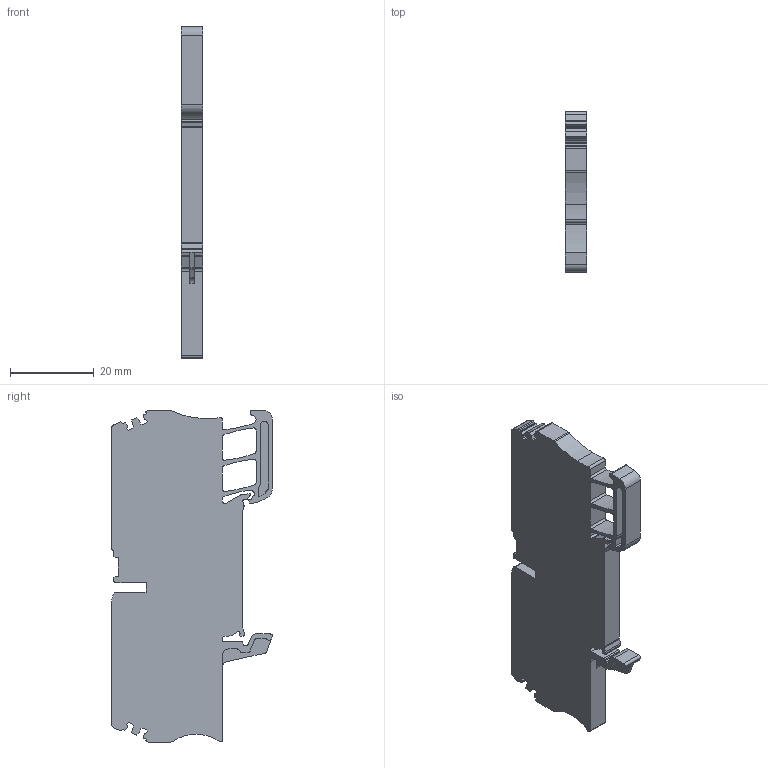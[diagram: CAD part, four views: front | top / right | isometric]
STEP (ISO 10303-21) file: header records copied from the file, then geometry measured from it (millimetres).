
FILE_DESCRIPTION( ( '' ), '1' );
FILE_NAME( '//expscmdclustefs.cadenas.external/client_exchange/iodir/jobs/output/wkb54602417_no0/STEP/ZDU_2_5_4AN_1608570000_2_03.stp', '2013-02-19T15:46:04', ( '' ), ( '' ), ' ', ' ', ' ' );
FILE_SCHEMA( ( 'CONFIG_CONTROL_DESIGN' ) );
Length unit declared in the file: millimetre
Products named in the file (1): 1
Bounding box: 5.1 x 38.35 x 79.23 mm (x, y, z)
Volume: 10226.4 mm3; surface area: 7710.4 mm2
Topology: 1 solids, 1 shells, 321 faces, 931 edges, 618 vertices
Faces by surface type: plane 176, cylinder 141, cone 4
Entity records: 10703 total; most frequent: CARTESIAN_POINT 1911, ORIENTED_EDGE 1862, DIRECTION 1853, EDGE_CURVE 931, LINE 637, VECTOR 637, VERTEX_POINT 618, AXIS2_PLACEMENT_3D 608
